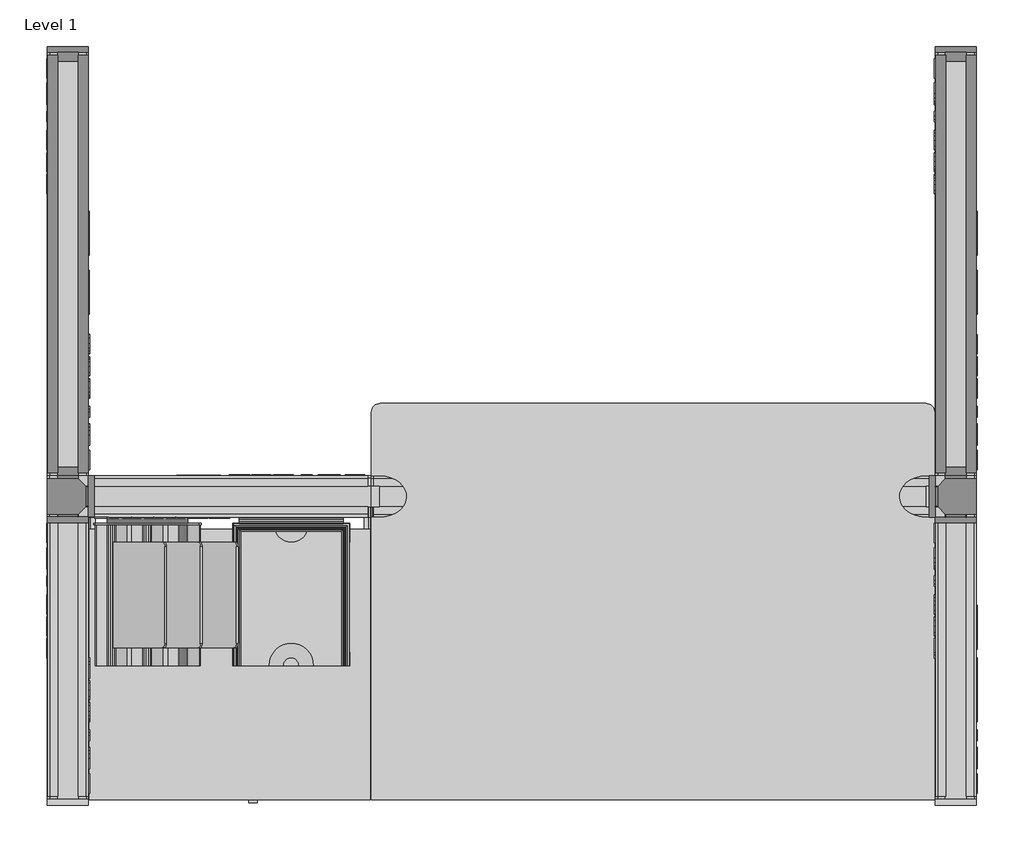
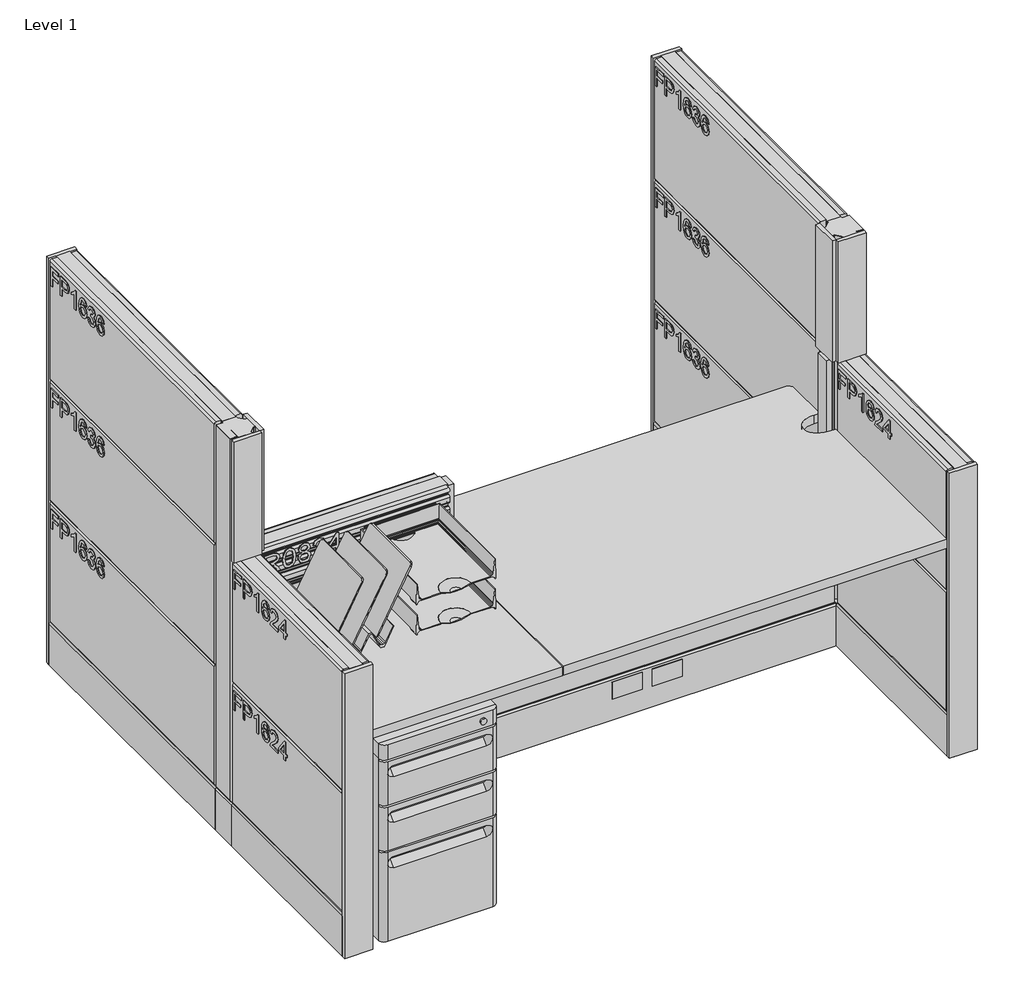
# One storey, incomplete: 55 furniture elements.
"""IFC4 building model written with IfcOpenShell, lengths in millimetres."""

from ifc_helpers import new_model, si_unit, origin, place, context, project, spatial, transform, mapped, element, save
from components import furniture_deab35e4, furniture_d1243616, furniture_82e04d0f, furniture_7da167ec, furniture_7367badf, furniture_1fd32b5c, furniture_8bbf410e, furniture_14619263, furniture_e028a27c, furniture_bb7a0342, furniture_624f4475, furniture_1125ae4c, furniture_9dcc6860, furniture_083f9362, furniture_85814acf, furniture_c5aecc28, furniture_d119ae5b, furniture_f058e72c, furniture_cc1b62bf, furniture_24d_left_781ecdd2, furniture_24d_right_b8f5cfed, lam_24d_24w_e9b59cf5, lam_24d_48w_d90dfd80

model = new_model("IFC4")

# Units and contexts
model_context = context("Model", 3, world=origin())
ifc_project = project(units=[si_unit("LENGTHUNIT", "METRE", prefix="MILLI")], contexts=[model_context])

# Site, building, storey
site = spatial("IfcSite", under=ifc_project)
building = spatial("IfcBuilding", under=site)
storey = spatial("IfcBuildingStorey", under=building, Name="Level 1", Elevation=0.0)

# Furniture
placement = place(None, origin())
furniture_shape = furniture_deab35e4(model_context)
element("IfcFurniture", 1, ObjectType="HermanMiller_Ethospace_E1425_RailTile : 08\"H x 24\"W", at=placement, inside=storey, context=model_context, shape_type="MappedRepresentation", body=[
    mapped(furniture_shape, transform((393.70254, -981.075, 0.0), x_axis=(1.0, 0.0, 0.0), y_axis=(0.0, 1.0, 0.0), z_axis=(0.0, 0.0, 1.0))),
])
furniture_2_shape = furniture_d1243616(model_context)
element("IfcFurniture", 2, ObjectType="HermanMiller_Ethospace_E1420_FaceTile : Ptd 16\"H x 24\"W", at=placement, inside=storey, context=model_context, shape_type="MappedRepresentation", body=[
    mapped(furniture_2_shape, transform((1931.0654739, -1308.13556, 0.0), x_axis=(0.0, -1.0, 0.0), y_axis=(1.0, 0.0, 0.0), z_axis=(0.0, 0.0, 1.0))),
])
element("IfcFurniture", 3, ObjectType="HermanMiller_Ethospace_E1420_FaceTile : Ptd 16\"H x 24\"W", at=placement, inside=storey, context=model_context, shape_type="MappedRepresentation", body=[
    mapped(furniture_2_shape, transform((1993.7704661, -1308.13556, 0.0), x_axis=(0.0, 1.0, 0.0), y_axis=(-1.0, 0.0, 0.0), z_axis=(0.0, 0.0, 1.0))),
])
element("IfcFurniture", 4, ObjectType="HermanMiller_Ethospace_E1420_FaceTile : Ptd 16\"H x 24\"W", at=placement, inside=storey, context=model_context, shape_type="MappedRepresentation", body=[
    mapped(furniture_2_shape, transform((393.70254, -989.8049861, 0.0), x_axis=(1.0, 0.0, 0.0), y_axis=(0.0, 1.0, 0.0), z_axis=(0.0, 0.0, 1.0))),
])
element("IfcFurniture", 5, ObjectType="HermanMiller_Ethospace_E1420_FaceTile : Ptd 16\"H x 24\"W", at=placement, inside=storey, context=model_context, shape_type="MappedRepresentation", body=[
    mapped(furniture_2_shape, transform((393.70254, -927.0999939, 0.0), x_axis=(-1.0, 0.0, 0.0), y_axis=(0.0, -1.0, 0.0), z_axis=(0.0, 0.0, 1.0))),
])
element("IfcFurniture", 6, ObjectType="HermanMiller_Ethospace_E1420_FaceTile : Ptd 16\"H x 24\"W", at=placement, inside=storey, context=model_context, shape_type="MappedRepresentation", body=[
    mapped(furniture_2_shape, transform((13.4975539, -1308.1, 0.0), x_axis=(0.0, -1.0, 0.0), y_axis=(1.0, 0.0, 0.0), z_axis=(0.0, 0.0, 1.0))),
])
element("IfcFurniture", 7, ObjectType="HermanMiller_Ethospace_E1420_FaceTile : Ptd 16\"H x 24\"W", at=placement, inside=storey, context=model_context, shape_type="MappedRepresentation", body=[
    mapped(furniture_2_shape, transform((76.2025461, -1308.1, 0.0), x_axis=(0.0, 1.0, 0.0), y_axis=(-1.0, 0.0, 0.0), z_axis=(0.0, 0.0, 1.0))),
])
furniture_3_shape = furniture_82e04d0f(model_context)
element("IfcFurniture", 8, ObjectType="HermanMiller_Ethospace_E1109_Frame : 38\"H x 24\"W-H", at=placement, inside=storey, context=model_context, shape_type="MappedRepresentation", body=[
    mapped(furniture_3_shape, transform((1962.02046, -1308.13556, 0.0), x_axis=(0.0, 1.0, 0.0), y_axis=(-1.0, 0.0, 0.0), z_axis=(0.0, 0.0, 1.0))),
])
element("IfcFurniture", 9, ObjectType="HermanMiller_Ethospace_E1109_Frame : 38\"H x 24\"W-H", at=placement, inside=storey, context=model_context, shape_type="MappedRepresentation", body=[
    mapped(furniture_3_shape, transform((393.57046, -958.85, 0.0), x_axis=(-1.0, 0.0, 0.0), y_axis=(0.0, -1.0, 0.0), z_axis=(0.0, 0.0, 1.0))),
])
element("IfcFurniture", 10, ObjectType="HermanMiller_Ethospace_E1109_Frame : 38\"H x 24\"W-H", at=placement, inside=storey, context=model_context, shape_type="MappedRepresentation", body=[
    mapped(furniture_3_shape, transform((44.45254, -1308.1, 0.0), x_axis=(0.0, 1.0, 0.0), y_axis=(-1.0, 0.0, 0.0), z_axis=(0.0, 0.0, 1.0))),
])
furniture_4_shape = furniture_7da167ec(model_context)
element("IfcFurniture", 11, ObjectType="HermanMiller_Quadrant_G5110_B-PullFreestandingPedestal : 26-1/2\"H x 20\"D x 15\"W BBF", at=placement, inside=storey, context=model_context, shape_type="MappedRepresentation", body=[
    mapped(furniture_4_shape, transform((309.36438, -1364.234, 0.0), x_axis=(1.0, 0.0, 0.0), y_axis=(0.0, 1.0, 0.0), z_axis=(0.0, 0.0, 1.0))),
])
furniture_5_shape = furniture_7367badf(model_context)
element("IfcFurniture", 12, ObjectType="HermanMiller_Ethospace_E1251_FinishedEndChangeOfHeight : Std Ptd 16\"H", at=placement, inside=storey, context=model_context, shape_type="MappedRepresentation", body=[
    mapped(furniture_5_shape, transform((1967.8166656, -1008.7061618, 0.0), x_axis=(0.0, -1.0, 0.0), y_axis=(1.0, 0.0, 0.0), z_axis=(0.0, 0.0, 1.0))),
])
element("IfcFurniture", 13, ObjectType="HermanMiller_Ethospace_E1251_FinishedEndChangeOfHeight : Std Ptd 16\"H", at=placement, inside=storey, context=model_context, shape_type="MappedRepresentation", body=[
    mapped(furniture_5_shape, transform((50.2487456, -1008.6706018, 0.0), x_axis=(0.0, -1.0, 0.0), y_axis=(1.0, 0.0, 0.0), z_axis=(0.0, 0.0, 1.0))),
])
element("IfcFurniture", 14, ObjectType="HermanMiller_Ethospace_E1251_FinishedEndChangeOfHeight : Std Ptd 16\"H", at=placement, inside=storey, context=model_context, shape_type="MappedRepresentation", body=[
    mapped(furniture_5_shape, transform((1912.1998582, -964.6817656, 0.0), x_axis=(-1.0, 0.0, 0.0), y_axis=(0.0, -1.0, 0.0), z_axis=(0.0, 0.0, 1.0))),
])
element("IfcFurniture", 15, ObjectType="HermanMiller_Ethospace_E1251_FinishedEndChangeOfHeight : Std Ptd 16\"H", at=placement, inside=storey, context=model_context, shape_type="MappedRepresentation", body=[
    mapped(furniture_5_shape, transform((94.2731418, -953.0537944, 0.0), x_axis=(1.0, 0.0, 0.0), y_axis=(0.0, 1.0, 0.0), z_axis=(0.0, 0.0, 1.0))),
])
furniture_6_shape = furniture_1fd32b5c(model_context)
element("IfcFurniture", 16, ObjectType="HermanMiller_Ethospace_E1250_FinishedEnd : Std Ptd 54\"H", at=placement, inside=storey, context=model_context, shape_type="MappedRepresentation", body=[
    mapped(furniture_6_shape, transform((1956.2242544, 5.3350418, 0.0), x_axis=(0.0, 1.0, 0.0), y_axis=(-1.0, 0.0, 0.0), z_axis=(0.0, 0.0, 1.0))),
])
element("IfcFurniture", 17, ObjectType="HermanMiller_Ethospace_E1250_FinishedEnd : Std Ptd 54\"H", at=placement, inside=storey, context=model_context, shape_type="MappedRepresentation", body=[
    mapped(furniture_6_shape, transform((38.6563344, 5.3706018, 0.0), x_axis=(0.0, 1.0, 0.0), y_axis=(-1.0, 0.0, 0.0), z_axis=(0.0, 0.0, 1.0))),
])
furniture_7_shape = furniture_8bbf410e(model_context)
element("IfcFurniture", 18, ObjectType="HermanMiller_Ethospace_E1250_FinishedEnd : Std Ptd 38\"H", at=placement, inside=storey, context=model_context, shape_type="MappedRepresentation", body=[
    mapped(furniture_7_shape, transform((1967.8166656, -1618.3061618, 0.0), x_axis=(0.0, -1.0, 0.0), y_axis=(1.0, 0.0, 0.0), z_axis=(0.0, 0.0, 1.0))),
])
element("IfcFurniture", 19, ObjectType="HermanMiller_Ethospace_E1250_FinishedEnd : Std Ptd 38\"H", at=placement, inside=storey, context=model_context, shape_type="MappedRepresentation", body=[
    mapped(furniture_7_shape, transform((50.2487456, -1618.2706018, 0.0), x_axis=(0.0, -1.0, 0.0), y_axis=(1.0, 0.0, 0.0), z_axis=(0.0, 0.0, 1.0))),
])
furniture_8_shape = furniture_14619263(model_context)
element("IfcFurniture", 20, ObjectType="HermanMiller_Ethospace_E1420_FaceTile : Ptd 16\"H x 36\"W", at=placement, inside=storey, context=model_context, shape_type="MappedRepresentation", body=[
    mapped(furniture_8_shape, transform((1993.7704661, -457.23556, 0.0), x_axis=(0.0, 1.0, 0.0), y_axis=(-1.0, 0.0, 0.0), z_axis=(0.0, 0.0, 1.0))),
])
element("IfcFurniture", 21, ObjectType="HermanMiller_Ethospace_E1420_FaceTile : Ptd 16\"H x 36\"W", at=placement, inside=storey, context=model_context, shape_type="MappedRepresentation", body=[
    mapped(furniture_8_shape, transform((1931.0654739, -457.23556, 0.0), x_axis=(0.0, -1.0, 0.0), y_axis=(1.0, 0.0, 0.0), z_axis=(0.0, 0.0, 1.0))),
])
element("IfcFurniture", 22, ObjectType="HermanMiller_Ethospace_E1420_FaceTile : Ptd 16\"H x 36\"W", at=placement, inside=storey, context=model_context, shape_type="MappedRepresentation", body=[
    mapped(furniture_8_shape, transform((76.2025461, -457.2, 0.0), x_axis=(0.0, 1.0, 0.0), y_axis=(-1.0, 0.0, 0.0), z_axis=(0.0, 0.0, 1.0))),
])
element("IfcFurniture", 23, ObjectType="HermanMiller_Ethospace_E1420_FaceTile : Ptd 16\"H x 36\"W", at=placement, inside=storey, context=model_context, shape_type="MappedRepresentation", body=[
    mapped(furniture_8_shape, transform((13.4975539, -457.2, 0.0), x_axis=(0.0, -1.0, 0.0), y_axis=(1.0, 0.0, 0.0), z_axis=(0.0, 0.0, 1.0))),
])
furniture_9_shape = furniture_e028a27c(model_context)
element("IfcFurniture", 24, ObjectType="HermanMiller_Ethospace_E1420_FaceTile : Ptd 16\"H x 36\"W", at=placement, inside=storey, context=model_context, shape_type="MappedRepresentation", body=[
    mapped(furniture_9_shape, transform((1993.7704661, -457.23556, 0.0), x_axis=(0.0, 1.0, 0.0), y_axis=(-1.0, 0.0, 0.0), z_axis=(0.0, 0.0, 1.0))),
])
element("IfcFurniture", 25, ObjectType="HermanMiller_Ethospace_E1420_FaceTile : Ptd 16\"H x 36\"W", at=placement, inside=storey, context=model_context, shape_type="MappedRepresentation", body=[
    mapped(furniture_9_shape, transform((1931.0654739, -457.23556, 0.0), x_axis=(0.0, -1.0, 0.0), y_axis=(1.0, 0.0, 0.0), z_axis=(0.0, 0.0, 1.0))),
])
element("IfcFurniture", 26, ObjectType="HermanMiller_Ethospace_E1420_FaceTile : Ptd 16\"H x 36\"W", at=placement, inside=storey, context=model_context, shape_type="MappedRepresentation", body=[
    mapped(furniture_9_shape, transform((76.2025461, -457.2, 0.0), x_axis=(0.0, 1.0, 0.0), y_axis=(-1.0, 0.0, 0.0), z_axis=(0.0, 0.0, 1.0))),
])
element("IfcFurniture", 27, ObjectType="HermanMiller_Ethospace_E1420_FaceTile : Ptd 16\"H x 36\"W", at=placement, inside=storey, context=model_context, shape_type="MappedRepresentation", body=[
    mapped(furniture_9_shape, transform((13.4975539, -457.2, 0.0), x_axis=(0.0, -1.0, 0.0), y_axis=(1.0, 0.0, 0.0), z_axis=(0.0, 0.0, 1.0))),
])
furniture_10_shape = furniture_bb7a0342(model_context)
element("IfcFurniture", 28, ObjectType="HermanMiller_Ethospace_E1420_FaceTile : Ptd 16\"H x 36\"W", at=placement, inside=storey, context=model_context, shape_type="MappedRepresentation", body=[
    mapped(furniture_10_shape, transform((1993.7704661, -457.23556, 0.0), x_axis=(0.0, 1.0, 0.0), y_axis=(-1.0, 0.0, 0.0), z_axis=(0.0, 0.0, 1.0))),
])
element("IfcFurniture", 29, ObjectType="HermanMiller_Ethospace_E1420_FaceTile : Ptd 16\"H x 36\"W", at=placement, inside=storey, context=model_context, shape_type="MappedRepresentation", body=[
    mapped(furniture_10_shape, transform((1931.0654739, -457.23556, 0.0), x_axis=(0.0, -1.0, 0.0), y_axis=(1.0, 0.0, 0.0), z_axis=(0.0, 0.0, 1.0))),
])
element("IfcFurniture", 30, ObjectType="HermanMiller_Ethospace_E1420_FaceTile : Ptd 16\"H x 36\"W", at=placement, inside=storey, context=model_context, shape_type="MappedRepresentation", body=[
    mapped(furniture_10_shape, transform((76.2025461, -457.2, 0.0), x_axis=(0.0, 1.0, 0.0), y_axis=(-1.0, 0.0, 0.0), z_axis=(0.0, 0.0, 1.0))),
])
element("IfcFurniture", 31, ObjectType="HermanMiller_Ethospace_E1420_FaceTile : Ptd 16\"H x 36\"W", at=placement, inside=storey, context=model_context, shape_type="MappedRepresentation", body=[
    mapped(furniture_10_shape, transform((13.4975539, -457.2, 0.0), x_axis=(0.0, -1.0, 0.0), y_axis=(1.0, 0.0, 0.0), z_axis=(0.0, 0.0, 1.0))),
])
furniture_11_shape = furniture_624f4475(model_context)
element("IfcFurniture", 32, ObjectType="HermanMiller_Ethospace_E1220_90DegreeConnector : Vnyl 54\"H 3-Way-N", at=placement, inside=storey, context=model_context, shape_type="MappedRepresentation", body=[
    mapped(furniture_11_shape, transform((1953.8552499, -933.4855581, 0.0), x_axis=(0.0, -1.0, 0.0), y_axis=(1.0, 0.0, 0.0), z_axis=(0.0, 0.0, 1.0))),
])
element("IfcFurniture", 33, ObjectType="HermanMiller_Ethospace_E1220_90DegreeConnector : Vnyl 54\"H 3-Way-N", at=placement, inside=storey, context=model_context, shape_type="MappedRepresentation", body=[
    mapped(furniture_11_shape, transform((52.6177501, -984.2500019, 0.0), x_axis=(0.0, 1.0, 0.0), y_axis=(-1.0, 0.0, 0.0), z_axis=(0.0, 0.0, 1.0))),
])
furniture_12_shape = furniture_1125ae4c(model_context)
element("IfcFurniture", 34, ObjectType="HermanMiller_Ethospace_E1109_Frame : 54\"H x 36\"W-H", at=placement, inside=storey, context=model_context, shape_type="MappedRepresentation", body=[
    mapped(furniture_12_shape, transform((1962.02046, -457.23556, 0.0), x_axis=(0.0, 1.0, 0.0), y_axis=(-1.0, 0.0, 0.0), z_axis=(0.0, 0.0, 1.0))),
])
element("IfcFurniture", 35, ObjectType="HermanMiller_Ethospace_E1109_Frame : 54\"H x 36\"W-H", at=placement, inside=storey, context=model_context, shape_type="MappedRepresentation", body=[
    mapped(furniture_12_shape, transform((44.45254, -457.2, 0.0), x_axis=(0.0, 1.0, 0.0), y_axis=(-1.0, 0.0, 0.0), z_axis=(0.0, 0.0, 1.0))),
])
furniture_13_shape = furniture_9dcc6860(model_context)
element("IfcFurniture", 36, ObjectType="HermanMiller_Ethospace_E1420_FaceTile : Ptd 16\"H x 24\"W", at=placement, inside=storey, context=model_context, shape_type="MappedRepresentation", body=[
    mapped(furniture_13_shape, transform((1931.0654739, -1308.13556, 0.0), x_axis=(0.0, -1.0, 0.0), y_axis=(1.0, 0.0, 0.0), z_axis=(0.0, 0.0, 1.0))),
])
element("IfcFurniture", 37, ObjectType="HermanMiller_Ethospace_E1420_FaceTile : Ptd 16\"H x 24\"W", at=placement, inside=storey, context=model_context, shape_type="MappedRepresentation", body=[
    mapped(furniture_13_shape, transform((1993.7704661, -1308.13556, 0.0), x_axis=(0.0, 1.0, 0.0), y_axis=(-1.0, 0.0, 0.0), z_axis=(0.0, 0.0, 1.0))),
])
element("IfcFurniture", 38, ObjectType="HermanMiller_Ethospace_E1420_FaceTile : Ptd 16\"H x 24\"W", at=placement, inside=storey, context=model_context, shape_type="MappedRepresentation", body=[
    mapped(furniture_13_shape, transform((393.70254, -927.0999939, 0.0), x_axis=(-1.0, 0.0, 0.0), y_axis=(0.0, -1.0, 0.0), z_axis=(0.0, 0.0, 1.0))),
])
element("IfcFurniture", 39, ObjectType="HermanMiller_Ethospace_E1420_FaceTile : Ptd 16\"H x 24\"W", at=placement, inside=storey, context=model_context, shape_type="MappedRepresentation", body=[
    mapped(furniture_13_shape, transform((13.4975539, -1308.1, 0.0), x_axis=(0.0, -1.0, 0.0), y_axis=(1.0, 0.0, 0.0), z_axis=(0.0, 0.0, 1.0))),
])
element("IfcFurniture", 40, ObjectType="HermanMiller_Ethospace_E1420_FaceTile : Ptd 16\"H x 24\"W", at=placement, inside=storey, context=model_context, shape_type="MappedRepresentation", body=[
    mapped(furniture_13_shape, transform((76.2025461, -1308.1, 0.0), x_axis=(0.0, 1.0, 0.0), y_axis=(-1.0, 0.0, 0.0), z_axis=(0.0, 0.0, 1.0))),
])
furniture_14_shape = furniture_083f9362(model_context)
element("IfcFurniture", 41, ObjectType="HermanMiller_Ethospace_E1420_FaceTile : Ptd 20\"H x 48\"W", at=placement, inside=storey, context=model_context, shape_type="MappedRepresentation", body=[
    mapped(furniture_14_shape, transform((1308.10254, -927.0999939, 0.0), x_axis=(-1.0, 0.0, 0.0), y_axis=(0.0, -1.0, 0.0), z_axis=(0.0, 0.0, 1.0))),
])
element("IfcFurniture", 42, ObjectType="HermanMiller_Ethospace_E1420_FaceTile : Ptd 20\"H x 48\"W", at=placement, inside=storey, context=model_context, shape_type="MappedRepresentation", body=[
    mapped(furniture_14_shape, transform((1307.97046, -990.6355661, 0.0), x_axis=(1.0, 0.0, 0.0), y_axis=(0.0, 1.0, 0.0), z_axis=(0.0, 0.0, 1.0))),
])
furniture_15_shape = furniture_85814acf(model_context)
element("IfcFurniture", 43, ObjectType="HermanMiller_Ethospace_E1116_FrameTransactionWorkSurface : 38\"H x 48\"W-H", at=placement, inside=storey, context=model_context, shape_type="MappedRepresentation", body=[
    mapped(furniture_15_shape, transform((1307.97046, -958.88556, 0.0), x_axis=(1.0, 0.0, 0.0), y_axis=(0.0, 1.0, 0.0), z_axis=(0.0, 0.0, 1.0))),
])
furniture_16_shape = furniture_c5aecc28(model_context)
element("IfcFurniture", 44, ObjectType="HermanMiller_Ethospace_E1420_FaceTile : Ptd 08\"H x 24\"W", at=placement, inside=storey, context=model_context, shape_type="MappedRepresentation", body=[
    mapped(furniture_16_shape, transform((393.70254, -990.6000061, 0.0), x_axis=(1.0, 0.0, 0.0), y_axis=(0.0, 1.0, 0.0), z_axis=(0.0, 0.0, 1.0))),
])
furniture_17_shape = furniture_d119ae5b(model_context)
element("IfcFurniture", 45, ObjectType="HermanMiller_ThrivePortfolio_Y7216_PaperTray : 3\"H x 12\"D x 10\"W", at=placement, inside=storey, context=model_context, shape_type="MappedRepresentation", body=[
    mapped(furniture_17_shape, transform((526.65376, -1170.29992, 0.0), x_axis=(1.0, 0.0, 0.0), y_axis=(0.0, 1.0, 0.0), z_axis=(0.0, 0.0, 1.0))),
])
furniture_18_shape = furniture_f058e72c(model_context)
element("IfcFurniture", 46, ObjectType="HermanMiller_ThrivePortfolio_Y7216_PaperTray : 3\"H x 12\"D x 10\"W", at=placement, inside=storey, context=model_context, shape_type="MappedRepresentation", body=[
    mapped(furniture_18_shape, transform((526.65376, -1170.29992, 0.0), x_axis=(1.0, 0.0, 0.0), y_axis=(0.0, 1.0, 0.0), z_axis=(0.0, 0.0, 1.0))),
])
furniture_19_shape = furniture_cc1b62bf(model_context)
element("IfcFurniture", 47, ObjectType="HermanMiller_ThrivePortfolio_Y7218_DiagonalTray : 8 1/2\"H x 12\"D x 13\"W", at=placement, inside=storey, context=model_context, shape_type="MappedRepresentation", body=[
    mapped(furniture_19_shape, transform((216.499197, -1170.29992, 0.0), x_axis=(1.0, 0.0, 0.0), y_axis=(0.0, 1.0, 0.0), z_axis=(0.0, 0.0, 1.0))),
])
furniture_24d_left_shape = furniture_24d_left_781ecdd2(model_context)
element("IfcFurniture", 48, ObjectType="HermanMiller_Ethospace_E2393_WorkSurfaceSupport : 24D Left", at=placement, inside=storey, context=model_context, shape_type="MappedRepresentation", body=[
    mapped(furniture_24d_left_shape, transform((90.42654, -1235.6465, 0.0), x_axis=(1.0, 0.0, 0.0), y_axis=(0.0, 1.0, 0.0), z_axis=(0.0, 0.0, 1.0))),
])
element("IfcFurniture", 49, ObjectType="HermanMiller_Ethospace_E2393_WorkSurfaceSupport : 24D Left", at=placement, inside=storey, context=model_context, shape_type="MappedRepresentation", body=[
    mapped(furniture_24d_left_shape, transform((700.02654, -1235.075, 0.0), x_axis=(1.0, 0.0, 0.0), y_axis=(0.0, 1.0, 0.0), z_axis=(0.0, 0.0, 1.0))),
])
element("IfcFurniture", 50, ObjectType="HermanMiller_Ethospace_E2393_WorkSurfaceSupport : 24D Left", at=placement, inside=storey, context=model_context, shape_type="MappedRepresentation", body=[
    mapped(furniture_24d_left_shape, transform((700.02654, -1235.075, 0.0), x_axis=(1.0, 0.0, 0.0), y_axis=(0.0, 1.0, 0.0), z_axis=(0.0, 0.0, 1.0))),
])
furniture_24d_right_shape = furniture_24d_right_b8f5cfed(model_context)
element("IfcFurniture", 51, ObjectType="HermanMiller_Ethospace_E2393_WorkSurfaceSupport : 24D Right", at=placement, inside=storey, context=model_context, shape_type="MappedRepresentation", body=[
    mapped(furniture_24d_right_shape, transform((696.97854, -1235.6465, 0.0), x_axis=(1.0, 0.0, 0.0), y_axis=(0.0, 1.0, 0.0), z_axis=(0.0, 0.0, 1.0))),
])
element("IfcFurniture", 52, ObjectType="HermanMiller_Ethospace_E2393_WorkSurfaceSupport : 24D Right", at=placement, inside=storey, context=model_context, shape_type="MappedRepresentation", body=[
    mapped(furniture_24d_right_shape, transform((1916.17854, -1235.075, 0.0), x_axis=(1.0, 0.0, 0.0), y_axis=(0.0, 1.0, 0.0), z_axis=(0.0, 0.0, 1.0))),
])
element("IfcFurniture", 53, ObjectType="HermanMiller_Ethospace_E2393_WorkSurfaceSupport : 24D Right", at=placement, inside=storey, context=model_context, shape_type="MappedRepresentation", body=[
    mapped(furniture_24d_right_shape, transform((1916.17854, -1235.075, 0.0), x_axis=(1.0, 0.0, 0.0), y_axis=(0.0, 1.0, 0.0), z_axis=(0.0, 0.0, 1.0))),
])
lam_24d_24w_shape = lam_24d_24w_e9b59cf5(model_context)
element("IfcFurniture", 54, ObjectType="HermanMiller_Ethospace_EWS10_F_Sq-EdgeRectangularSurface_FrameAttached : Lam 24D 24W", at=placement, inside=storey, context=model_context, shape_type="MappedRepresentation", body=[
    mapped(lam_24d_24w_shape, transform((553.0509404, -1788.1629812, 0.0), x_axis=(1.0, 0.0, 0.0), y_axis=(0.0, 1.0, 0.0), z_axis=(0.0, 0.0, 1.0))),
])
lam_24d_48w_shape = lam_24d_48w_d90dfd80(model_context)
element("IfcFurniture", 55, ObjectType="HermanMiller_Ethospace_EWS70_F_Sq-EdgeTransactionWorkSurface_FrameAttached : Lam 24D 48W", at=placement, inside=storey, context=model_context, shape_type="MappedRepresentation", body=[
    mapped(lam_24d_48w_shape, transform((1308.10254, -1308.6715, 0.0), x_axis=(1.0, 0.0, 0.0), y_axis=(0.0, 1.0, 0.0), z_axis=(0.0, 0.0, 1.0))),
])

save(model, "model.ifc")
